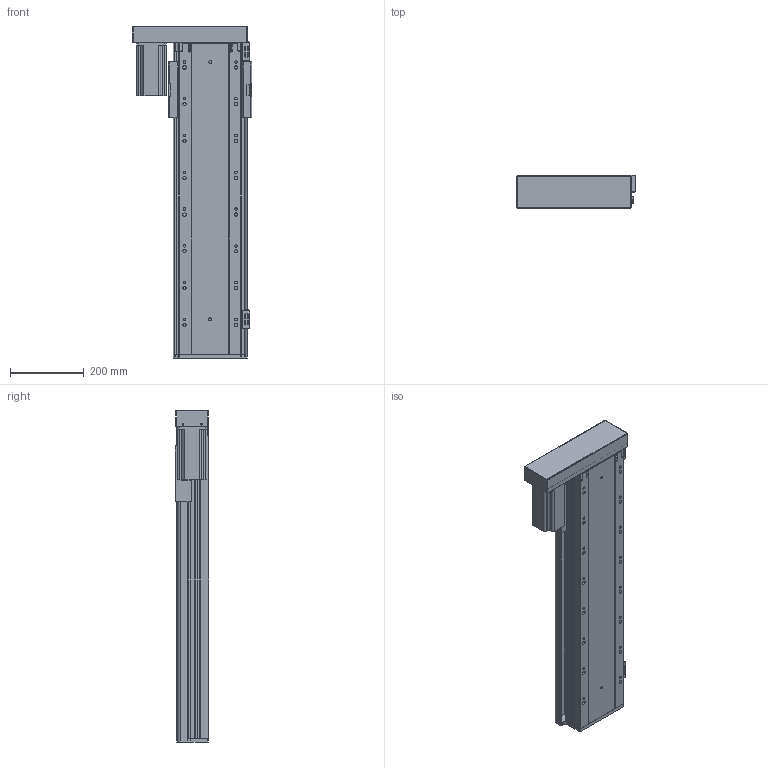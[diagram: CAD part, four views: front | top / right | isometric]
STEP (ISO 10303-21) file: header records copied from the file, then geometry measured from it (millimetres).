
FILE_DESCRIPTION (( 'STEP AP203' ), '1' );
FILE_NAME ('RY170FB-L2020-300-LK.SLDASM_600.step', '2021-02-23T03:02:37', ( '盈信电脑' ), ( '东莞市道滘镇水果街19号' ), 'SwSTEP 2.0', 'SolidWorks 2012', '' );
FILE_SCHEMA (( 'CONFIG_CONTROL_DESIGN' ));
Products named in the file (16): RY170FB-左右折电机安装板750W; RY170FB-酘衵殏萇儂欶750W; RY170FB-L2020-300-LK.SLDASM_600; RY140FB-674嫖萇覜茼え; RY140-674嫖萇耀輸; RY170FB-300蛌殏奻裔-LK_600; RY170FB-綴裔啣; RY140直线电机感应器674光电安装座; 覜茼ん674; RY170FB-铝滑块(25丝杆）; 滅袉蝶18-10; 怢湛750W萇儂ㄗ80遺ㄘ; RY170FB-转折电机端支撑座(7002); RY170FB-300蛌殏倰第菁釱-LK_600; 滅袉蝶18-28
Assembly tree (18 placements, depth 3):
  RY170FB-L2020-300-LK.SLDASM_600
    RY170FB-300蛌殏倰第菁釱-LK_600
    滅袉蝶18-28
    滅袉蝶18-10
    RY170FB-转折电机端支撑座(7002)
    怢湛750W萇儂ㄗ80遺ㄘ
    RY170FB-铝滑块(25丝杆）
    RY170FB-綴裔啣
    RY170FB-300蛌殏奻裔-LK_600
    RY140-674嫖萇耀輸
      覜茼ん674  x2
      RY140直线电机感应器674光电安装座
    RY140-674嫖萇耀輸
      覜茼ん674
      RY140直线电机感应器674光电安装座
    RY140FB-674嫖萇覜茼え
    RY170FB-左右折电机安装板750W
    RY170FB-酘衵殏萇儂欶750W
Bounding box: 323.95 x 90.5 x 902.7 mm (x, y, z)
Volume: 6078011.1 mm3; surface area: 1734901.7 mm2
Topology: 16 solids, 16 shells, 1581 faces, 4506 edges, 2868 vertices
Faces by surface type: cylinder 833, plane 592, cone 148, bspline 8
Entity records: 50583 total; most frequent: CARTESIAN_POINT 12211, ORIENTED_EDGE 7768, DIRECTION 7520, EDGE_CURVE 3884, AXIS2_PLACEMENT_3D 2739, VERTEX_POINT 2548, LINE 2042, VECTOR 2042
